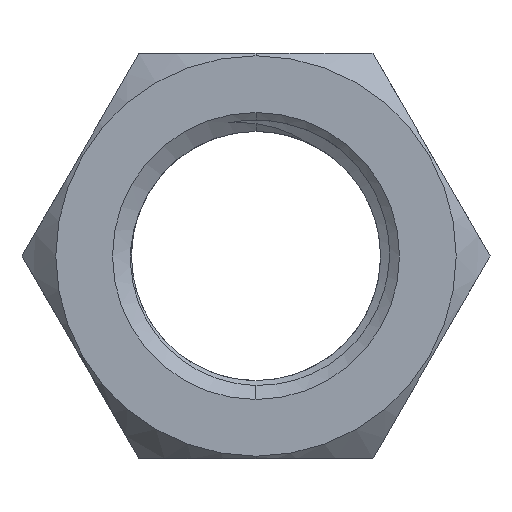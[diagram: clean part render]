
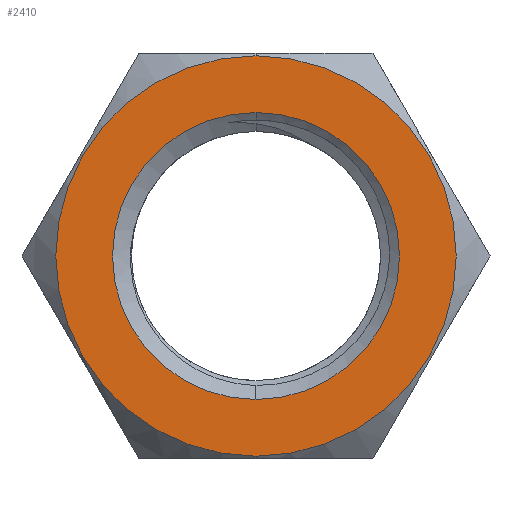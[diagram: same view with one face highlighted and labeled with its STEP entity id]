
A CAD part, front view. The second image highlights one B-rep face of the part: STEP entity #2410.
In plain terms, the highlighted planar face has unit normal (0, -1, 0).
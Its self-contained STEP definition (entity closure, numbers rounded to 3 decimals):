
#113 = DIRECTION ( 'NONE',  ( 0., 0., -1. ) ) ;
#116 = CARTESIAN_POINT ( 'NONE',  ( 0., -6.5, 0. ) ) ;
#197 = CARTESIAN_POINT ( 'NONE',  ( 0., -6.5, -11.856 ) ) ;
#273 = CIRCLE ( 'NONE', #2493, 11.856 ) ;
#274 = EDGE_CURVE ( 'NONE', #994, #2025, #273, .T. ) ;
#290 = EDGE_CURVE ( 'NONE', #2649, #2777, #2436, .T. ) ;
#354 = ORIENTED_EDGE ( 'NONE', *, *, #1786, .F. ) ;
#356 = DIRECTION ( 'NONE',  ( 0., -1., 0. ) ) ;
#429 = CARTESIAN_POINT ( 'NONE',  ( 0., -6.5, 0. ) ) ;
#525 = EDGE_CURVE ( 'NONE', #2025, #994, #2096, .T. ) ;
#576 = FACE_BOUND ( 'NONE', #2791, .T. ) ;
#752 = DIRECTION ( 'NONE',  ( 0., 0., -1. ) ) ;
#900 = CARTESIAN_POINT ( 'NONE',  ( 0., -6.5, 11.856 ) ) ;
#994 = VERTEX_POINT ( 'NONE', #197 ) ;
#1054 = AXIS2_PLACEMENT_3D ( 'NONE', #2762, #2538, #2027 ) ;
#1302 = ORIENTED_EDGE ( 'NONE', *, *, #525, .T. ) ;
#1437 = AXIS2_PLACEMENT_3D ( 'NONE', #116, #2189, #2427 ) ;
#1457 = DIRECTION ( 'NONE',  ( 0., -1., 0. ) ) ;
#1595 = CARTESIAN_POINT ( 'NONE',  ( 0., -6.5, 0. ) ) ;
#1622 = FACE_OUTER_BOUND ( 'NONE', #3003, .T. ) ;
#1771 = CARTESIAN_POINT ( 'NONE',  ( 0., -6.5, -8.5 ) ) ;
#1786 = EDGE_CURVE ( 'NONE', #2777, #2649, #2608, .T. ) ;
#2025 = VERTEX_POINT ( 'NONE', #900 ) ;
#2027 = DIRECTION ( 'NONE',  ( 0., 0., -1. ) ) ;
#2096 = CIRCLE ( 'NONE', #2922, 11.856 ) ;
#2120 = ORIENTED_EDGE ( 'NONE', *, *, #290, .F. ) ;
#2168 = CARTESIAN_POINT ( 'NONE',  ( 0., -6.5, 0. ) ) ;
#2189 = DIRECTION ( 'NONE',  ( 0., 1., 0. ) ) ;
#2313 = ORIENTED_EDGE ( 'NONE', *, *, #274, .T. ) ;
#2410 = ADVANCED_FACE ( 'NONE', ( #576, #1622 ), #2676, .F. ) ;
#2427 = DIRECTION ( 'NONE',  ( 0., 0., 1. ) ) ;
#2436 = CIRCLE ( 'NONE', #1054, 8.5 ) ;
#2493 = AXIS2_PLACEMENT_3D ( 'NONE', #429, #1457, #2569 ) ;
#2538 = DIRECTION ( 'NONE',  ( 0., -1., 0. ) ) ;
#2569 = DIRECTION ( 'NONE',  ( 0., 0., -1. ) ) ;
#2608 = CIRCLE ( 'NONE', #2656, 8.5 ) ;
#2649 = VERTEX_POINT ( 'NONE', #3295 ) ;
#2656 = AXIS2_PLACEMENT_3D ( 'NONE', #2168, #356, #113 ) ;
#2657 = DIRECTION ( 'NONE',  ( 0., -1., 0. ) ) ;
#2676 = PLANE ( 'NONE',  #1437 ) ;
#2762 = CARTESIAN_POINT ( 'NONE',  ( 0., -6.5, 0. ) ) ;
#2777 = VERTEX_POINT ( 'NONE', #1771 ) ;
#2791 = EDGE_LOOP ( 'NONE', ( #2120, #354 ) ) ;
#2922 = AXIS2_PLACEMENT_3D ( 'NONE', #1595, #2657, #752 ) ;
#3003 = EDGE_LOOP ( 'NONE', ( #1302, #2313 ) ) ;
#3295 = CARTESIAN_POINT ( 'NONE',  ( 0., -6.5, 8.5 ) ) ;
